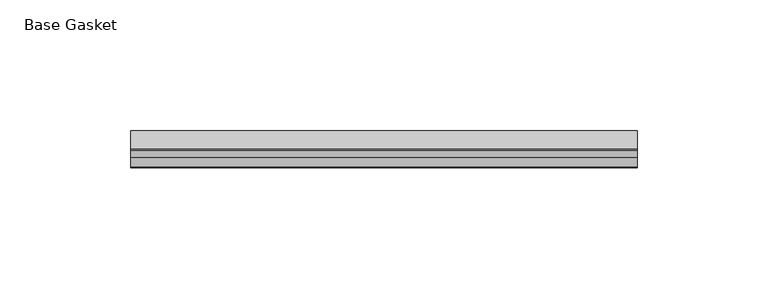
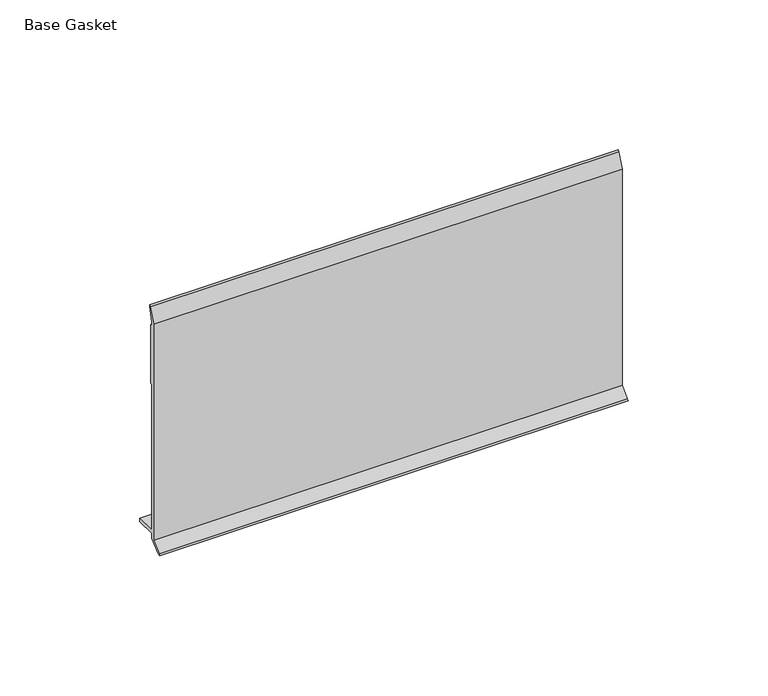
"""IFC4 building model written with IfcOpenShell, lengths in millimetres: furniture geometry, Gasket-Teknion-FHGB-AI_Healthcare-R2021 : Base Gasket."""

from ifc_helpers import new_model, si_unit, frame, origin, place, context, project, spatial, polyline, outline, extrude, source, transform, mapped, element, save


def base_gasket_807d4185(model_context):
    return source(origin(), model_context, "Body", "SweptSolid", [
        extrude(outline(polyline([(-3.7283812, 98.4568417), (-1.1891543, 104.587663), (-0.6755308, 105.2002997), (-0.6755308, 104.4162708), (-2.2043812, 98.4568417), (-2.2043812, 96.8693477), (-1.4106313, 96.8693477), (-1.4106313, 71.4693447), (-2.2043812, 71.4693447), (-2.2043812, 7.9398773), (6.2405171, 7.9398773), (6.2405171, 6.3818476), (-2.1334222, 6.3818476), (-2.2043812, 4.3498477), (-6.8281054, 0.3520979), (-7.8482342, 0.0), (-7.4222115, 0.6560174), (-3.7283812, 4.3498477), (-3.7283812, 98.4568417)])), frame((-1527.8982117, 0.0, 0.0), z_axis=(1.0, 0.0, 0.0), x_axis=(0.0, 1.0, 0.0)), (0.0, 0.0, 1.0), 193.2432),
    ])


if __name__ == "__main__":
    model = new_model("IFC4")
    model_context = context("Model", 3, world=origin())
    ifc_project = project(units=[si_unit("LENGTHUNIT", "METRE", prefix="MILLI")], contexts=[model_context])
    site = spatial("IfcSite", under=ifc_project)
    building = spatial("IfcBuilding", under=site)
    placement = place(None, origin())
    base_gasket_shape = base_gasket_807d4185(model_context)
    element("IfcFurniture", 1, ObjectType="Gasket-Teknion-FHGB-AI_Healthcare-R2021 : Base Gasket", at=placement, inside=building, context=model_context, shape_type="MappedRepresentation", body=[
        mapped(base_gasket_shape, transform((0.0, 0.0, 0.0), x_axis=(1.0, 0.0, 0.0), y_axis=(0.0, 1.0, 0.0), z_axis=(0.0, 0.0, 1.0))),
    ])
    save(model, "model.ifc")
